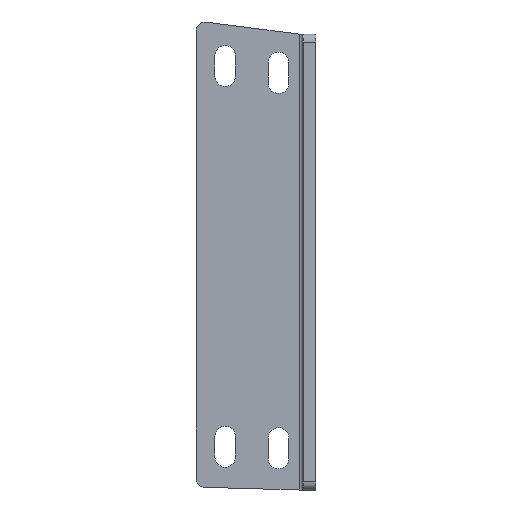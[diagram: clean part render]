
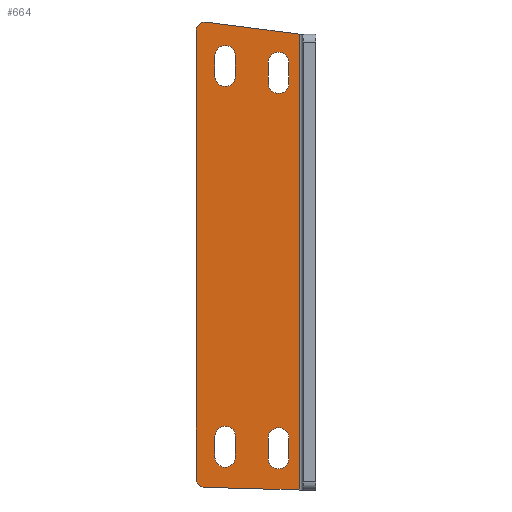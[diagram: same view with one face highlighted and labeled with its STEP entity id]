
A CAD part, front view. The second image highlights one B-rep face of the part: STEP entity #664.
In plain terms, the highlighted planar face has unit normal (0, -1, 0).
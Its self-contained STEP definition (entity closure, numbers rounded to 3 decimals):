
#111=DIRECTION('',(0.,0.,-1.));
#112=VECTOR('',#111,5.);
#113=CARTESIAN_POINT('',(-22.5,-3.,133.434));
#114=LINE('',#113,#112);
#115=CARTESIAN_POINT('',(-20.,-3.,128.434));
#116=DIRECTION('',(0.,-1.,0.));
#117=DIRECTION('',(-1.,0.,0.));
#118=AXIS2_PLACEMENT_3D('',#115,#116,#117);
#120=DIRECTION('',(0.,0.,1.));
#121=VECTOR('',#120,5.);
#122=CARTESIAN_POINT('',(-17.5,-3.,128.434));
#123=LINE('',#122,#121);
#124=CARTESIAN_POINT('',(-20.,-3.,133.434));
#125=DIRECTION('',(0.,-1.,0.));
#126=DIRECTION('',(1.,0.,0.));
#127=AXIS2_PLACEMENT_3D('',#124,#125,#126);
#129=DIRECTION('',(0.,0.,-1.));
#130=VECTOR('',#129,5.);
#131=CARTESIAN_POINT('',(-22.5,-3.,42.073));
#132=LINE('',#131,#130);
#133=CARTESIAN_POINT('',(-20.,-3.,37.073));
#134=DIRECTION('',(0.,-1.,0.));
#135=DIRECTION('',(-1.,0.,0.));
#136=AXIS2_PLACEMENT_3D('',#133,#134,#135);
#138=DIRECTION('',(0.,0.,1.));
#139=VECTOR('',#138,5.);
#140=CARTESIAN_POINT('',(-17.5,-3.,37.073));
#141=LINE('',#140,#139);
#142=CARTESIAN_POINT('',(-20.,-3.,42.073));
#143=DIRECTION('',(0.,-1.,0.));
#144=DIRECTION('',(1.,0.,0.));
#145=AXIS2_PLACEMENT_3D('',#142,#143,#144);
#147=DIRECTION('',(0.,0.,-1.));
#148=VECTOR('',#147,5.);
#149=CARTESIAN_POINT('',(-35.508,-3.,135.115));
#150=LINE('',#149,#148);
#151=CARTESIAN_POINT('',(-33.008,-3.,130.115));
#152=DIRECTION('',(0.,-1.,0.));
#153=DIRECTION('',(-1.,0.,0.));
#154=AXIS2_PLACEMENT_3D('',#151,#152,#153);
#156=DIRECTION('',(0.,0.,1.));
#157=VECTOR('',#156,5.);
#158=CARTESIAN_POINT('',(-30.508,-3.,130.115));
#159=LINE('',#158,#157);
#160=CARTESIAN_POINT('',(-33.008,-3.,135.115));
#161=DIRECTION('',(0.,-1.,0.));
#162=DIRECTION('',(1.,0.,0.));
#163=AXIS2_PLACEMENT_3D('',#160,#161,#162);
#165=DIRECTION('',(0.,0.,-1.));
#166=VECTOR('',#165,5.);
#167=CARTESIAN_POINT('',(-35.508,-3.,42.441));
#168=LINE('',#167,#166);
#169=CARTESIAN_POINT('',(-33.008,-3.,37.441));
#170=DIRECTION('',(0.,-1.,0.));
#171=DIRECTION('',(-1.,0.,0.));
#172=AXIS2_PLACEMENT_3D('',#169,#170,#171);
#174=DIRECTION('',(0.,0.,1.));
#175=VECTOR('',#174,5.);
#176=CARTESIAN_POINT('',(-30.508,-3.,37.441));
#177=LINE('',#176,#175);
#178=CARTESIAN_POINT('',(-33.008,-3.,42.441));
#179=DIRECTION('',(0.,-1.,0.));
#180=DIRECTION('',(1.,0.,0.));
#181=AXIS2_PLACEMENT_3D('',#178,#179,#180);
#183=CARTESIAN_POINT('',(-38.,-3.,32.08));
#184=DIRECTION('',(0.,-1.,0.));
#185=DIRECTION('',(-1.,0.,0.));
#186=AXIS2_PLACEMENT_3D('',#183,#184,#185);
#188=DIRECTION('',(0.,0.,1.));
#189=VECTOR('',#188,109.247);
#190=CARTESIAN_POINT('',(-40.,-3.,32.08));
#191=LINE('',#190,#189);
#192=CARTESIAN_POINT('',(-38.,-3.,141.327));
#193=DIRECTION('',(0.,-1.,0.));
#194=DIRECTION('',(0.128,0.,0.992));
#195=AXIS2_PLACEMENT_3D('',#192,#193,#194);
#197=DIRECTION('',(0.992,0.,-0.128));
#198=VECTOR('',#197,22.933);
#199=CARTESIAN_POINT('',(-37.744,-3.,143.311));
#200=LINE('',#199,#198);
#201=DIRECTION('',(-1.,0.,0.028));
#202=VECTOR('',#201,23.066);
#203=CARTESIAN_POINT('',(-15.,-3.,29.427));
#204=LINE('',#203,#202);
#305=DIRECTION('',(0.,0.,1.));
#306=VECTOR('',#305,110.944);
#307=CARTESIAN_POINT('',(-15.,-3.,29.427));
#308=LINE('',#307,#306);
#413=CARTESIAN_POINT('',(-22.5,-3.,133.434));
#414=CARTESIAN_POINT('',(-22.5,-3.,128.434));
#415=VERTEX_POINT('',#413);
#416=VERTEX_POINT('',#414);
#417=CARTESIAN_POINT('',(-17.5,-3.,128.434));
#418=VERTEX_POINT('',#417);
#419=CARTESIAN_POINT('',(-17.5,-3.,133.434));
#420=VERTEX_POINT('',#419);
#421=CARTESIAN_POINT('',(-22.5,-3.,42.073));
#422=CARTESIAN_POINT('',(-22.5,-3.,37.073));
#423=VERTEX_POINT('',#421);
#424=VERTEX_POINT('',#422);
#425=CARTESIAN_POINT('',(-17.5,-3.,37.073));
#426=VERTEX_POINT('',#425);
#427=CARTESIAN_POINT('',(-17.5,-3.,42.073));
#428=VERTEX_POINT('',#427);
#429=CARTESIAN_POINT('',(-35.508,-3.,135.115));
#430=CARTESIAN_POINT('',(-35.508,-3.,130.115));
#431=VERTEX_POINT('',#429);
#432=VERTEX_POINT('',#430);
#433=CARTESIAN_POINT('',(-30.508,-3.,130.115));
#434=VERTEX_POINT('',#433);
#435=CARTESIAN_POINT('',(-30.508,-3.,135.115));
#436=VERTEX_POINT('',#435);
#437=CARTESIAN_POINT('',(-35.508,-3.,42.441));
#438=CARTESIAN_POINT('',(-35.508,-3.,37.441));
#439=VERTEX_POINT('',#437);
#440=VERTEX_POINT('',#438);
#441=CARTESIAN_POINT('',(-30.508,-3.,37.441));
#442=VERTEX_POINT('',#441);
#443=CARTESIAN_POINT('',(-30.508,-3.,42.441));
#444=VERTEX_POINT('',#443);
#446=CARTESIAN_POINT('',(-15.,-3.,29.427));
#448=VERTEX_POINT('',#446);
#450=CARTESIAN_POINT('',(-15.,-3.,140.371));
#452=VERTEX_POINT('',#450);
#457=CARTESIAN_POINT('',(-40.,-3.,32.08));
#458=VERTEX_POINT('',#457);
#459=CARTESIAN_POINT('',(-38.057,-3.,30.081));
#460=VERTEX_POINT('',#459);
#465=CARTESIAN_POINT('',(-37.744,-3.,143.311));
#466=VERTEX_POINT('',#465);
#467=CARTESIAN_POINT('',(-40.,-3.,141.327));
#468=VERTEX_POINT('',#467);
#609=CARTESIAN_POINT('',(0.,-3.,0.));
#610=DIRECTION('',(0.,1.,0.));
#611=DIRECTION('',(1.,0.,0.));
#612=AXIS2_PLACEMENT_3D('',#609,#610,#611);
#613=PLANE('',#612);
#615=ORIENTED_EDGE('',*,*,#614,.F.);
#617=ORIENTED_EDGE('',*,*,#616,.T.);
#619=ORIENTED_EDGE('',*,*,#618,.F.);
#621=ORIENTED_EDGE('',*,*,#620,.T.);
#623=ORIENTED_EDGE('',*,*,#622,.F.);
#625=ORIENTED_EDGE('',*,*,#624,.T.);
#626=EDGE_LOOP('',(#615,#617,#619,#621,#623,#625));
#627=FACE_OUTER_BOUND('',#626,.F.);
#629=ORIENTED_EDGE('',*,*,#628,.T.);
#631=ORIENTED_EDGE('',*,*,#630,.T.);
#633=ORIENTED_EDGE('',*,*,#632,.T.);
#635=ORIENTED_EDGE('',*,*,#634,.T.);
#636=EDGE_LOOP('',(#629,#631,#633,#635));
#637=FACE_BOUND('',#636,.F.);
#639=ORIENTED_EDGE('',*,*,#638,.T.);
#641=ORIENTED_EDGE('',*,*,#640,.T.);
#643=ORIENTED_EDGE('',*,*,#642,.T.);
#645=ORIENTED_EDGE('',*,*,#644,.T.);
#646=EDGE_LOOP('',(#639,#641,#643,#645));
#647=FACE_BOUND('',#646,.F.);
#649=ORIENTED_EDGE('',*,*,#648,.T.);
#651=ORIENTED_EDGE('',*,*,#650,.T.);
#653=ORIENTED_EDGE('',*,*,#652,.T.);
#655=ORIENTED_EDGE('',*,*,#654,.T.);
#656=EDGE_LOOP('',(#649,#651,#653,#655));
#657=FACE_BOUND('',#656,.F.);
#658=ORIENTED_EDGE('',*,*,#561,.T.);
#659=ORIENTED_EDGE('',*,*,#576,.T.);
#660=ORIENTED_EDGE('',*,*,#590,.T.);
#661=ORIENTED_EDGE('',*,*,#603,.T.);
#662=EDGE_LOOP('',(#658,#659,#660,#661));
#663=FACE_BOUND('',#662,.F.);
#664=ADVANCED_FACE('',(#627,#637,#647,#657,#663),#613,.F.);
#119=CIRCLE('',#118,2.5);
#128=CIRCLE('',#127,2.5);
#137=CIRCLE('',#136,2.5);
#146=CIRCLE('',#145,2.5);
#155=CIRCLE('',#154,2.5);
#164=CIRCLE('',#163,2.5);
#173=CIRCLE('',#172,2.5);
#182=CIRCLE('',#181,2.5);
#187=CIRCLE('',#186,2.);
#196=CIRCLE('',#195,2.);
#561=EDGE_CURVE('',#415,#416,#114,.T.);
#576=EDGE_CURVE('',#416,#418,#119,.T.);
#590=EDGE_CURVE('',#418,#420,#123,.T.);
#603=EDGE_CURVE('',#420,#415,#128,.T.);
#614=EDGE_CURVE('',#458,#460,#187,.T.);
#616=EDGE_CURVE('',#458,#468,#191,.T.);
#618=EDGE_CURVE('',#466,#468,#196,.T.);
#620=EDGE_CURVE('',#466,#452,#200,.T.);
#622=EDGE_CURVE('',#448,#452,#308,.T.);
#624=EDGE_CURVE('',#448,#460,#204,.T.);
#628=EDGE_CURVE('',#423,#424,#132,.T.);
#630=EDGE_CURVE('',#424,#426,#137,.T.);
#632=EDGE_CURVE('',#426,#428,#141,.T.);
#634=EDGE_CURVE('',#428,#423,#146,.T.);
#638=EDGE_CURVE('',#431,#432,#150,.T.);
#640=EDGE_CURVE('',#432,#434,#155,.T.);
#642=EDGE_CURVE('',#434,#436,#159,.T.);
#644=EDGE_CURVE('',#436,#431,#164,.T.);
#648=EDGE_CURVE('',#439,#440,#168,.T.);
#650=EDGE_CURVE('',#440,#442,#173,.T.);
#652=EDGE_CURVE('',#442,#444,#177,.T.);
#654=EDGE_CURVE('',#444,#439,#182,.T.);
